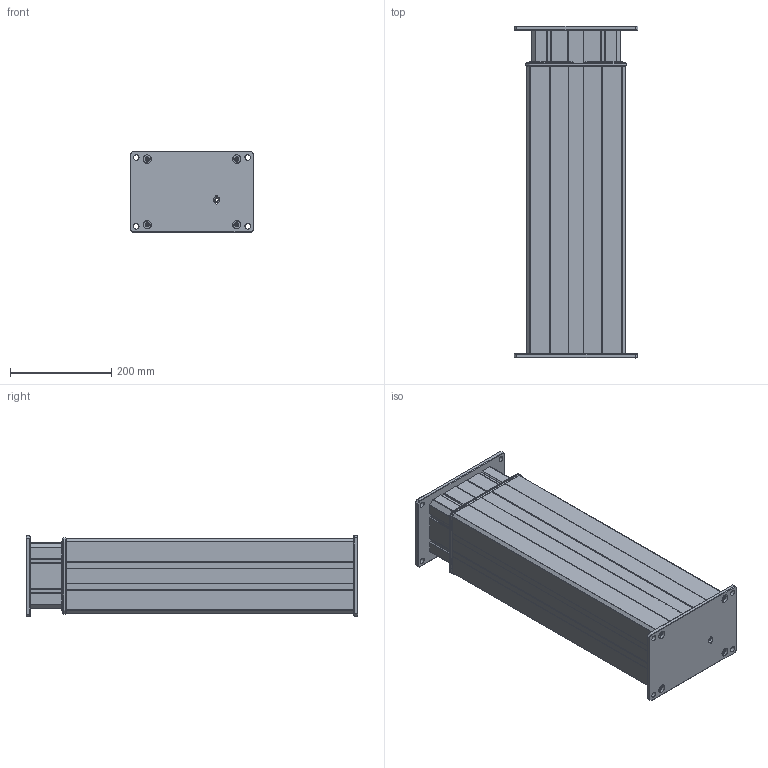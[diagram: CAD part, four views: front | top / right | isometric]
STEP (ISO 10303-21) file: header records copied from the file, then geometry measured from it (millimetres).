
FILE_DESCRIPTION((''),'2;1');
FILE_NAME('0579002_570_8_ASM_1_ASM','2023-05-08T08:21:10',('jak'),(''),'CREO PARAMETRIC BY PTC INC, 2022024','CREO PARAMETRIC BY PTC INC, 2022024','');
FILE_SCHEMA(('AUTOMOTIVE_DESIGN { 1 0 10303 214 1 1 1 1 }'));
Products named in the file (6): 0571005_570_1; 0571003_580_1; 0571052_1; 0571006_1; 0571007_1; 0579002_570_8_ASM_1_ASM
Assembly tree (5 placements, depth 2):
  0579002_570_8_ASM_1_ASM
    0571005_570_1
    0571003_580_1
    0571052_1
    0571006_1
    0571007_1
Bounding box: 244.2 x 655 x 160.3 mm (x, y, z)
Volume: 3940375.1 mm3; surface area: 1855165.7 mm2
Topology: 5 solids, 5 shells, 1994 faces, 5466 edges, 3480 vertices
Faces by surface type: cylinder 841, plane 709, bspline 304, sphere 96, cone 44
Entity records: 75654 total; most frequent: CARTESIAN_POINT 26214, ORIENTED_EDGE 10932, DIRECTION 9646, EDGE_CURVE 5466, VERTEX_POINT 3480, AXIS2_PLACEMENT_3D 3439, VECTOR 2768, LINE 2768
